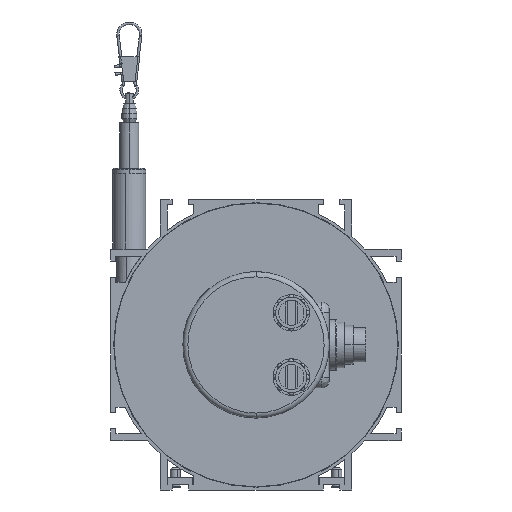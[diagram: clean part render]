
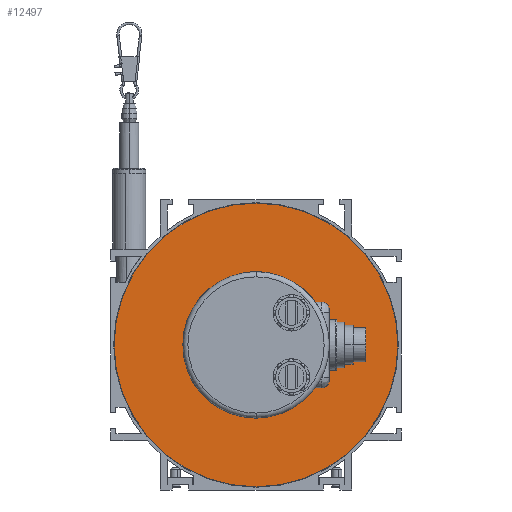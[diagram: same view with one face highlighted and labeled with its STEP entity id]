
A CAD part, left-side view. The second image highlights one B-rep face of the part: STEP entity #12497.
In plain terms, the highlighted planar face has unit normal (-1, 0, 0).
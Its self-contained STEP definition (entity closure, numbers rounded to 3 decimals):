
#2954=CARTESIAN_POINT('',(0.,0.,0.));
#2955=DIRECTION('',(1.,0.,0.));
#2956=DIRECTION('',(0.,1.,0.));
#2957=AXIS2_PLACEMENT_3D('',#2954,#2955,#2956);
#2959=CARTESIAN_POINT('',(0.,0.,0.));
#2960=DIRECTION('',(1.,0.,0.));
#2961=DIRECTION('',(0.,-1.,0.));
#2962=AXIS2_PLACEMENT_3D('',#2959,#2960,#2961);
#2964=CARTESIAN_POINT('',(0.,0.,0.));
#2965=DIRECTION('',(1.,0.,0.));
#2966=DIRECTION('',(0.,0.,1.));
#2967=AXIS2_PLACEMENT_3D('',#2964,#2965,#2966);
#2969=CARTESIAN_POINT('',(0.,0.,0.));
#2970=DIRECTION('',(1.,0.,0.));
#2971=DIRECTION('',(0.,0.,-1.));
#2972=AXIS2_PLACEMENT_3D('',#2969,#2970,#2971);
#6803=CARTESIAN_POINT('',(0.,56.25,0.));
#6804=CARTESIAN_POINT('',(0.,-56.25,0.));
#6805=VERTEX_POINT('',#6803);
#6806=VERTEX_POINT('',#6804);
#7905=CARTESIAN_POINT('',(0.,0.,29.));
#7906=CARTESIAN_POINT('',(0.,0.,-29.));
#7907=VERTEX_POINT('',#7905);
#7908=VERTEX_POINT('',#7906);
#12482=CARTESIAN_POINT('',(0.,0.,0.));
#12483=DIRECTION('',(-1.,0.,0.));
#12484=DIRECTION('',(0.,1.,0.));
#12485=AXIS2_PLACEMENT_3D('',#12482,#12483,#12484);
#12486=PLANE('',#12485);
#12487=ORIENTED_EDGE('',*,*,#12462,.T.);
#12488=ORIENTED_EDGE('',*,*,#12476,.T.);
#12489=EDGE_LOOP('',(#12487,#12488));
#12490=FACE_OUTER_BOUND('',#12489,.F.);
#12492=ORIENTED_EDGE('',*,*,#12491,.F.);
#12494=ORIENTED_EDGE('',*,*,#12493,.F.);
#12495=EDGE_LOOP('',(#12492,#12494));
#12496=FACE_BOUND('',#12495,.F.);
#12497=ADVANCED_FACE('',(#12490,#12496),#12486,.T.);
#2958=CIRCLE('',#2957,56.25);
#2963=CIRCLE('',#2962,56.25);
#2968=CIRCLE('',#2967,29.);
#2973=CIRCLE('',#2972,29.);
#12462=EDGE_CURVE('',#6805,#6806,#2958,.T.);
#12476=EDGE_CURVE('',#6806,#6805,#2963,.T.);
#12491=EDGE_CURVE('',#7907,#7908,#2968,.T.);
#12493=EDGE_CURVE('',#7908,#7907,#2973,.T.);
